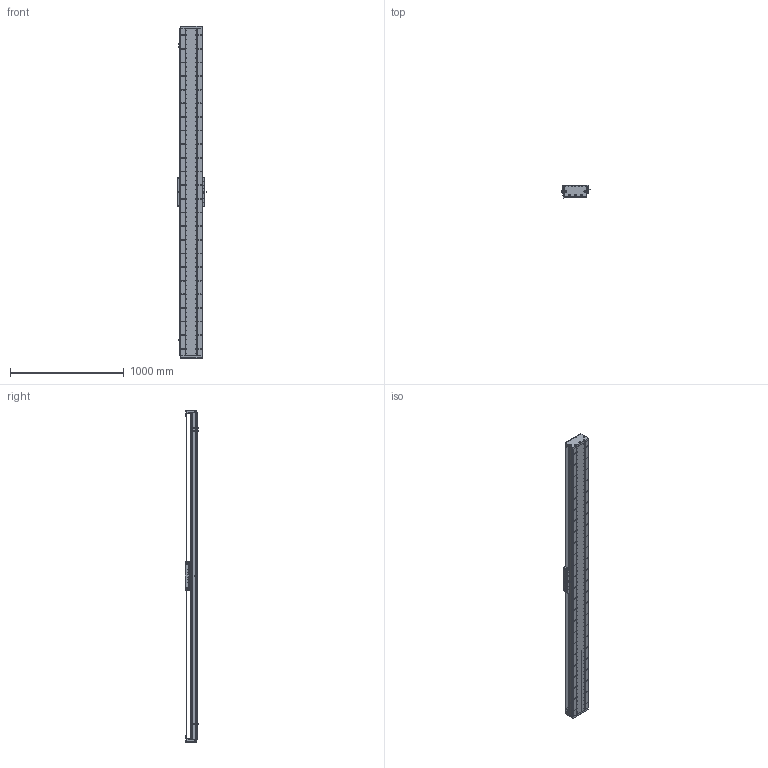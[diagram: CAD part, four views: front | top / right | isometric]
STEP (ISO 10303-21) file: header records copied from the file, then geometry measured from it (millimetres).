
FILE_DESCRIPTION (( 'STEP AP203' ), '1' );
FILE_NAME ('DA-C195-C3-T2580-C010-0.2 眻盄萇儂.STEP', '2025-08-15T01:31:25', ( '' ), ( '' ), 'SwSTEP 2.0', 'SolidWorks 2019', '' );
FILE_SCHEMA (( 'CONFIG_CONTROL_DESIGN' ));
Length unit declared in the file: millimetre
Products named in the file (15): MS200 棠掑喜S315-T240; IU-CU195-L 菁釱絳寢; DA195詩湍郪璃; CU195-C3賑輸-俋楷; DA-C195-C3-T2580-C010-0.2 眻盄萇儂; DA195詩湍裔啣; DA195詩湍菜輸; DA165-GYP-00 光电感应片(默认); IU-CU195-L-00 菁釱(L2880); PM-T45ㄗ侂狟ㄘ; DA195詩湍嶺輸; DA95-HXJ-00 遣喳砎蝶; 葩璃 DA95-GT-T-00; LMT黍杅芛; DA-C195-GD-DB-H-00 傷啣
Assembly tree (29 placements, depth 3):
  DA-C195-C3-T2580-C010-0.2 眻盄萇儂
    DA195詩湍郪璃
      DA195詩湍菜輸  x2
      DA195詩湍裔啣
      DA195詩湍嶺輸  x2
      DA95-HXJ-00 遣喳砎蝶  x8
      DA-C195-GD-DB-H-00 傷啣  x2
    IU-CU195-L 菁釱絳寢
      IU-CU195-L-00 菁釱(L2880)
      葩璃 DA95-GT-T-00  x4
    LMT黍杅芛
    MS200 棠掑喜S315-T240
    PM-T45ㄗ侂狟ㄘ  x3
    DA165-GYP-00 光电感应片(默认)
    CU195-C3賑輸-俋楷
Bounding box: 248 x 115.45 x 2920 mm (x, y, z)
Volume: 16941622.4 mm3; surface area: 4994985 mm2
Topology: 86 solids, 118 shells, 4444 faces, 12615 edges, 7969 vertices
Faces by surface type: cylinder 2474, plane 1368, cone 514, torus 52, sphere 36
Entity records: 145225 total; most frequent: CARTESIAN_POINT 39988, ORIENTED_EDGE 22146, DIRECTION 21102, EDGE_CURVE 11073, AXIS2_PLACEMENT_3D 7933, VERTEX_POINT 7171, LINE 5236, VECTOR 5236
